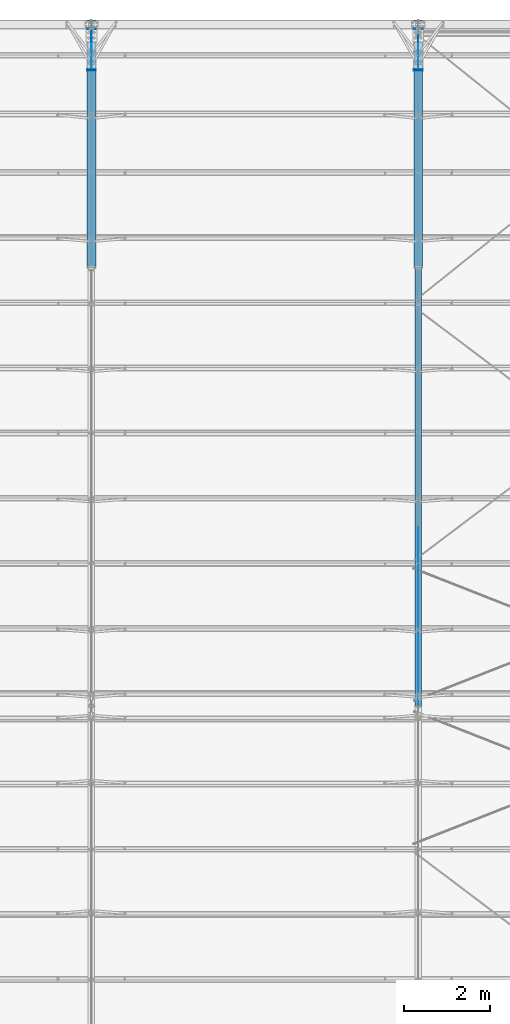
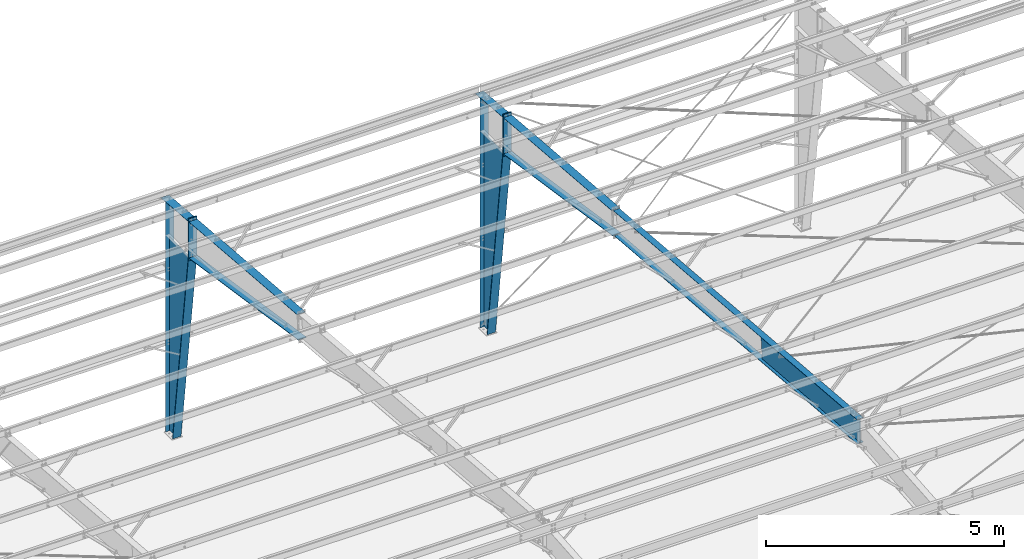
# One storey, part 57 of 185: 19 discrete accessories, 5 elements without a shape of their own.
"""IFC2X3 building model written with IfcOpenShell, lengths in millimetres."""

from ifc_helpers import new_model, si_unit, frame, origin_with_axes, origin_2d_with_axis, place, context, subcontext, project, spatial, rectangle, extrude, clip, halfspace, material, type_object, element, aggregate, save


model = new_model("IFC2X3")

# Units and contexts
model_context = context("Model", 3, precision=1e-05, world=origin_with_axes())
body_context = subcontext(model_context, "Body", "Model", "MODEL_VIEW")
ifc_project = project(units=[si_unit("LENGTHUNIT", "METRE", prefix="MILLI"), si_unit("AREAUNIT", "SQUARE_METRE"), si_unit("VOLUMEUNIT", "CUBIC_METRE"), si_unit("MASSUNIT", "GRAM", prefix="KILO"), si_unit("TIMEUNIT", "SECOND"), si_unit("PLANEANGLEUNIT", "RADIAN"), si_unit("SOLIDANGLEUNIT", "STERADIAN"), si_unit("THERMODYNAMICTEMPERATUREUNIT", "DEGREE_CELSIUS"), si_unit("LUMINOUSINTENSITYUNIT", "LUMEN")], contexts=[model_context])

# Site, building, storey
site_placement = place(None, origin_with_axes())
site = spatial("IfcSite", under=ifc_project, at=site_placement, Name="Undefined", CompositionType="ELEMENT")
building_placement = place(site_placement, origin_with_axes())
building = spatial("IfcBuilding", under=site, at=building_placement, Name="Undefined", CompositionType="ELEMENT")
storey_placement = place(building_placement, origin_with_axes())
storey = spatial("IfcBuildingStorey", under=building, at=storey_placement, Name="Undefined", CompositionType="ELEMENT", Elevation=0.0)

# Assembly, discrete accessory
assembly_1_placement = place(storey_placement, origin_with_axes())
assembly_1 = element("IfcElementAssembly", 1, at=assembly_1_placement, inside=storey, Name="Steel Assembly", AssemblyPlace="NOTDEFINED", PredefinedType="RIGID_FRAME")
ifc_material = material(Name="STEEL/55")
discrete_accessory_type_1 = type_object("IfcDiscreteAccessoryType", Name="Outside Flange")
discrete_accessory_1_placement = place(assembly_1_placement, frame((30099.0, 16015.0269501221, 7220.48297948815), z_axis=(-1.0, 0.0, 0.0), x_axis=(0.0, 0.996545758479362, -0.0830454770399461)))
discrete_accessory_1 = element("IfcDiscreteAccessory", 2, at=discrete_accessory_1_placement, type_object=discrete_accessory_type_1, material=ifc_material, Name="Outside Flange", ObjectType="FL5/16\"X6\"", context=body_context, shape_type="SweptSolid", body=[
    extrude(rectangle(XDim=7.874, YDim=152.4, at=origin_2d_with_axis()), frame((10276.4296125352, 1.96160351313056e-12, 0.0), z_axis=(-1.0, 0.0, 0.0), x_axis=(0.0, -1.0, 0.0)), (0.0, 0.0, 1.0), 10276.4),
])

assembly_2_placement = place(storey_placement, origin_with_axes())
assembly_2 = element("IfcElementAssembly", 3, at=assembly_2_placement, inside=storey, Name="Steel Assembly", AssemblyPlace="NOTDEFINED", PredefinedType="RIGID_FRAME")
discrete_accessory_2_placement = place(assembly_2_placement, frame((30099.0, 26278.234081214, 6365.21571746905), z_axis=(-1.0, 0.0, 0.0), x_axis=(0.0, 0.996545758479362, -0.0830454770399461)))
discrete_accessory_2 = element("IfcDiscreteAccessory", 4, at=discrete_accessory_2_placement, type_object=discrete_accessory_type_1, material=ifc_material, Name="Outside Flange", ObjectType="FL5/16\"X8\"", context=body_context, shape_type="SweptSolid", body=[
    extrude(rectangle(XDim=7.874, YDim=203.2, at=origin_2d_with_axis()), frame((4558.68878185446, 6.32645155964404e-14, 0.0), z_axis=(-1.0, 0.0, 0.0), x_axis=(0.0, -1.0, 0.0)), (0.0, 0.0, 1.0), 4558.7),
])

assembly_3_placement = place(storey_placement, origin_with_axes())
assembly_3 = element("IfcElementAssembly", 5, at=assembly_3_placement, inside=storey, Name="Steel Assembly", AssemblyPlace="NOTDEFINED", PredefinedType="RIGID_FRAME")
discrete_accessory_3_placement = place(assembly_3_placement, frame((30099.0, 31796.863, 15.8750000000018), z_axis=(0.0, 0.0, 1.0), x_axis=(1.0, 0.0, 0.0)))
discrete_accessory_3 = element("IfcDiscreteAccessory", 6, at=discrete_accessory_3_placement, type_object=discrete_accessory_type_1, material=ifc_material, Name="Outside Flange", ObjectType="FL5/16\"X8\"", context=body_context, shape_type="SweptSolid", body=[
    extrude(rectangle(XDim=7.874, YDim=203.2, at=origin_2d_with_axis()), frame((0.0, 0.0, 5885.17624136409), z_axis=(0.0, 0.0, -1.0), x_axis=(0.0, 1.0, 0.0)), (0.0, 0.0, 1.0), 5885.2),
])

assembly_4_placement = place(storey_placement, origin_with_axes())
assembly_4 = element("IfcElementAssembly", 7, at=assembly_4_placement, inside=storey, Name="Steel Assembly", AssemblyPlace="NOTDEFINED", PredefinedType="RIGID_FRAME")
discrete_accessory_4_placement = place(assembly_4_placement, frame((22479.0, 26278.234081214, 6365.21571746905), z_axis=(-1.0, 0.0, 0.0), x_axis=(0.0, 0.996545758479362, -0.0830454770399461)))
discrete_accessory_4 = element("IfcDiscreteAccessory", 8, at=discrete_accessory_4_placement, type_object=discrete_accessory_type_1, material=ifc_material, Name="Outside Flange", ObjectType="FL5/16\"X8\"", context=body_context, shape_type="SweptSolid", body=[
    extrude(rectangle(XDim=7.874, YDim=203.2, at=origin_2d_with_axis()), frame((4558.68878185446, 6.32645155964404e-14, 0.0), z_axis=(-1.0, 0.0, 0.0), x_axis=(0.0, -1.0, 0.0)), (0.0, 0.0, 1.0), 4558.7),
])

assembly_5_placement = place(storey_placement, origin_with_axes())
assembly_5 = element("IfcElementAssembly", 9, at=assembly_5_placement, inside=storey, Name="Steel Assembly", AssemblyPlace="NOTDEFINED", PredefinedType="RIGID_FRAME")
discrete_accessory_5_placement = place(assembly_5_placement, frame((22479.0, 31796.863, 15.8750000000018), z_axis=(0.0, 0.0, 1.0), x_axis=(1.0, 0.0, 0.0)))
discrete_accessory_5 = element("IfcDiscreteAccessory", 10, at=discrete_accessory_5_placement, type_object=discrete_accessory_type_1, material=ifc_material, Name="Outside Flange", ObjectType="FL5/16\"X8\"", context=body_context, shape_type="SweptSolid", body=[
    extrude(rectangle(XDim=7.874, YDim=203.2, at=origin_2d_with_axis()), frame((0.0, 0.0, 5885.17624136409), z_axis=(0.0, 0.0, -1.0), x_axis=(0.0, 1.0, 0.0)), (0.0, 0.0, 1.0), 5885.2),
])

# Discrete accessory
discrete_accessory_type_2 = type_object("IfcDiscreteAccessoryType", Name="Inside Flange")
discrete_accessory_6_placement = place(assembly_1_placement, frame((30099.0000000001, 16015.0955042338, 6600.03460773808), z_axis=(-1.0, 0.0, 0.0), x_axis=(0.0, 0.996545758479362, -0.0830454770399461)))
discrete_accessory_6 = element("IfcDiscreteAccessory", 11, at=discrete_accessory_6_placement, type_object=discrete_accessory_type_2, material=ifc_material, Name="Inside Flange", ObjectType="FL3/8\"X6\"", context=body_context, shape_type="SweptSolid", body=[
    extrude(rectangle(XDim=9.525, YDim=152.4, at=origin_2d_with_axis()), frame((10224.8358624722, 0.0, 0.0), z_axis=(-1.0, 0.0, 0.0), x_axis=(0.0, -1.0, 0.0)), (0.0, 0.0, 1.0), 10224.8),
])

discrete_accessory_7_placement = place(assembly_2_placement, frame((30098.9999999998, 30820.5627257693, 5058.80982208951), z_axis=(1.0, 0.0, 0.0), x_axis=(0.0, -0.988976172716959, 0.148074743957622)))
discrete_accessory_7 = element("IfcDiscreteAccessory", 12, at=discrete_accessory_7_placement, type_object=discrete_accessory_type_2, material=ifc_material, Name="Inside Flange", ObjectType="FL1/2\"X8\"", context=body_context, shape_type="SweptSolid", body=[
    extrude(rectangle(XDim=12.7, YDim=203.2, at=origin_2d_with_axis()), frame((4644.66771051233, -1.28915425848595e-13, 0.0), z_axis=(-1.0, 0.0, 0.0), x_axis=(0.0, -1.0, 0.0)), (0.0, 0.0, 1.0), 4644.7),
])

discrete_accessory_8_placement = place(assembly_3_placement, frame((30099.0, 31502.1855049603, 16.7056326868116), z_axis=(1.0, 0.0, 0.0), x_axis=(0.0, -0.130808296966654, 0.991407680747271)))
discrete_accessory_8 = element("IfcDiscreteAccessory", 13, at=discrete_accessory_8_placement, type_object=discrete_accessory_type_2, material=ifc_material, Name="Inside Flange", ObjectType="FL1/2\"X8\"", context=body_context, shape_type="SweptSolid", body=[
    extrude(rectangle(XDim=12.7, YDim=203.2, at=origin_2d_with_axis()), frame((5010.04109205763, -1.39056574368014e-13, 0.0), z_axis=(-1.0, 0.0, 0.0), x_axis=(0.0, -1.0, 0.0)), (0.0, 0.0, 1.0), 5010.0),
])

discrete_accessory_9_placement = place(assembly_4_placement, frame((22478.9999999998, 30820.5627257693, 5058.80982208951), z_axis=(1.0, 0.0, 0.0), x_axis=(0.0, -0.988976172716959, 0.148074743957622)))
discrete_accessory_9 = element("IfcDiscreteAccessory", 14, at=discrete_accessory_9_placement, type_object=discrete_accessory_type_2, material=ifc_material, Name="Inside Flange", ObjectType="FL1/2\"X8\"", context=body_context, shape_type="SweptSolid", body=[
    extrude(rectangle(XDim=12.7, YDim=203.2, at=origin_2d_with_axis()), frame((4644.66771051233, -1.28915425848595e-13, 0.0), z_axis=(-1.0, 0.0, 0.0), x_axis=(0.0, -1.0, 0.0)), (0.0, 0.0, 1.0), 4644.7),
])

discrete_accessory_10_placement = place(assembly_5_placement, frame((22479.0, 31502.1855049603, 16.7056326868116), z_axis=(1.0, 0.0, 0.0), x_axis=(0.0, -0.130808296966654, 0.991407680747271)))
discrete_accessory_10 = element("IfcDiscreteAccessory", 15, at=discrete_accessory_10_placement, type_object=discrete_accessory_type_2, material=ifc_material, Name="Inside Flange", ObjectType="FL1/2\"X8\"", context=body_context, shape_type="SweptSolid", body=[
    extrude(rectangle(XDim=12.7, YDim=203.2, at=origin_2d_with_axis()), frame((5010.04109205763, -1.39056574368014e-13, 0.0), z_axis=(-1.0, 0.0, 0.0), x_axis=(0.0, -1.0, 0.0)), (0.0, 0.0, 1.0), 5010.0),
])

discrete_accessory_type_3 = type_object("IfcDiscreteAccessoryType", Name="Web")
discrete_accessory_11_placement = place(assembly_1_placement, frame((30099.0, 20155.3771358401, 6565.64664856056), z_axis=(0.0, 0.0830454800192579, 0.996545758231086), x_axis=(0.0, -0.996545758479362, 0.0830454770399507)))
discrete_accessory_11 = element("IfcDiscreteAccessory", 16, at=discrete_accessory_11_placement, type_object=discrete_accessory_type_3, material=ifc_material, Name="Web", ObjectType="PL3/16\"X24\"", context=body_context, shape_type="Clipping", body=[
    clip(extrude(rectangle(XDim=4.762, YDim=609.6, at=origin_2d_with_axis()), frame((4231.63776454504, 0.0, 5.87257709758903e-14), z_axis=(-1.0, 0.0, 0.0), x_axis=(0.0, -1.0, 0.0)), (0.0, 0.0, 1.0), 4231.6), halfspace(frame((4180.5175024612, 0.0, 305.854676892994), z_axis=(-0.996545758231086, 0.0, 0.0830454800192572), x_axis=(0.0, -1.0, 0.0)), True)),
])

aggregate(assembly_1, [discrete_accessory_1, discrete_accessory_6, discrete_accessory_11])

discrete_accessory_12_placement = place(assembly_3_placement, frame((30099.0, 31323.026, 15.8750000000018), z_axis=(0.0, 0.0, 1.0), x_axis=(0.0, 1.0, 0.0)))
discrete_accessory_12 = element("IfcDiscreteAccessory", 17, at=discrete_accessory_12_placement, type_object=discrete_accessory_type_3, material=ifc_material, Name="Web", ObjectType="PL3/16\"X37\"", context=body_context, shape_type="Clipping", body=[
    clip(extrude(rectangle(XDim=4.7625, YDim=939.8, at=origin_2d_with_axis()), frame((0.0, 0.0, 4968.65448446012), z_axis=(0.0, 0.0, -1.0), x_axis=(0.0, 1.0, 0.0)), (0.0, 0.0, 1.0), 4968.7), halfspace(frame((-469.900000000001, -2.38124999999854, 4968.65448446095), z_axis=(-0.991407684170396, 0.0, -0.130808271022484), x_axis=(0.130808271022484, 0.0, -0.991407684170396)), False)),
])

discrete_accessory_13_placement = place(assembly_5_placement, frame((22479.0, 31323.026, 15.8750000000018), z_axis=(0.0, 0.0, 1.0), x_axis=(0.0, 1.0, 0.0)))
discrete_accessory_13 = element("IfcDiscreteAccessory", 18, at=discrete_accessory_13_placement, type_object=discrete_accessory_type_3, material=ifc_material, Name="Web", ObjectType="PL3/16\"X37\"", context=body_context, shape_type="Clipping", body=[
    clip(extrude(rectangle(XDim=4.7625, YDim=939.8, at=origin_2d_with_axis()), frame((0.0, 0.0, 4968.65448446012), z_axis=(0.0, 0.0, -1.0), x_axis=(0.0, 1.0, 0.0)), (0.0, 0.0, 1.0), 4968.7), halfspace(frame((-469.900000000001, -2.38124999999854, 4968.65448446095), z_axis=(-0.991407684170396, 0.0, -0.130808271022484), x_axis=(0.130808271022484, 0.0, -0.991407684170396)), False)),
])

discrete_accessory_type_4 = type_object("IfcDiscreteAccessoryType", Name="Rafter Haunch Plate")
discrete_accessory_14_placement = place(assembly_2_placement, frame((30099.0, 30829.377, 6060.85448861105), z_axis=(-1.0, 0.0, 0.0), x_axis=(0.0, 0.0, -1.0)))
discrete_accessory_14 = element("IfcDiscreteAccessory", 19, at=discrete_accessory_14_placement, type_object=discrete_accessory_type_4, material=ifc_material, Name="Rafter Haunch Plate", ObjectType="PL5/8\"X8\"", context=body_context, shape_type="SweptSolid", body=[
    extrude(rectangle(XDim=15.748, YDim=203.2, at=origin_2d_with_axis()), frame((1076.32500219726, 0.0, 0.0), z_axis=(-1.0, 0.0, 0.0), x_axis=(0.0, -1.0, 0.0)), (0.0, 0.0, 1.0), 1076.3),
])

aggregate(assembly_2, [discrete_accessory_2, discrete_accessory_7, discrete_accessory_14])

discrete_accessory_15_placement = place(assembly_4_placement, frame((22479.0, 30829.377, 6060.85448861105), z_axis=(-1.0, 0.0, 0.0), x_axis=(0.0, 0.0, -1.0)))
discrete_accessory_15 = element("IfcDiscreteAccessory", 20, at=discrete_accessory_15_placement, type_object=discrete_accessory_type_4, material=ifc_material, Name="Rafter Haunch Plate", ObjectType="PL5/8\"X8\"", context=body_context, shape_type="SweptSolid", body=[
    extrude(rectangle(XDim=15.748, YDim=203.2, at=origin_2d_with_axis()), frame((1076.32500219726, 0.0, 0.0), z_axis=(-1.0, 0.0, 0.0), x_axis=(0.0, -1.0, 0.0)), (0.0, 0.0, 1.0), 1076.3),
])

aggregate(assembly_4, [discrete_accessory_4, discrete_accessory_9, discrete_accessory_15])

discrete_accessory_type_5 = type_object("IfcDiscreteAccessoryType", Name="Column Connection Pla")
discrete_accessory_16_placement = place(assembly_3_placement, frame((30099.0, 30845.1885, 6060.85448555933), z_axis=(-1.0, 0.0, 0.0), x_axis=(0.0, 0.0, -1.0)))
discrete_accessory_16 = element("IfcDiscreteAccessory", 21, at=discrete_accessory_16_placement, type_object=discrete_accessory_type_5, material=ifc_material, Name="Column Connection Pla", ObjectType="FL5/8\"X8\"", context=body_context, shape_type="SweptSolid", body=[
    extrude(rectangle(XDim=15.875, YDim=203.2, at=origin_2d_with_axis()), frame((1076.32500219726, 0.0, 0.0), z_axis=(-1.0, 0.0, 0.0), x_axis=(0.0, -1.0, 0.0)), (0.0, 0.0, 1.0), 1076.3),
])

discrete_accessory_17_placement = place(assembly_5_placement, frame((22479.0, 30845.1885, 6060.85448555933), z_axis=(-1.0, 0.0, 0.0), x_axis=(0.0, 0.0, -1.0)))
discrete_accessory_17 = element("IfcDiscreteAccessory", 22, at=discrete_accessory_17_placement, type_object=discrete_accessory_type_5, material=ifc_material, Name="Column Connection Pla", ObjectType="FL5/8\"X8\"", context=body_context, shape_type="SweptSolid", body=[
    extrude(rectangle(XDim=15.875, YDim=203.2, at=origin_2d_with_axis()), frame((1076.32500219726, 0.0, 0.0), z_axis=(-1.0, 0.0, 0.0), x_axis=(0.0, -1.0, 0.0)), (0.0, 0.0, 1.0), 1076.3),
])

discrete_accessory_type_6 = type_object("IfcDiscreteAccessoryType", Name="Cap Plate")
discrete_accessory_18_placement = place(assembly_3_placement, frame((30099.0, 32003.669885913, 5888.13429608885), z_axis=(1.0, 0.0, 0.0), x_axis=(0.0, -0.996545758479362, 0.0830454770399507)))
discrete_accessory_18 = element("IfcDiscreteAccessory", 23, at=discrete_accessory_18_placement, type_object=discrete_accessory_type_6, material=ifc_material, Name="Cap Plate", ObjectType="FL5/16\"X8\"", context=body_context, shape_type="SweptSolid", body=[
    extrude(rectangle(XDim=7.9502, YDim=203.2, at=origin_2d_with_axis()), frame((1154.20065993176, 0.0, 0.0), z_axis=(-1.0, 0.0, 0.0), x_axis=(0.0, -1.0, 0.0)), (0.0, 0.0, 1.0), 1154.2),
])

aggregate(assembly_3, [discrete_accessory_16, discrete_accessory_18, discrete_accessory_3, discrete_accessory_8, discrete_accessory_12])

discrete_accessory_19_placement = place(assembly_5_placement, frame((22479.0, 32003.669885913, 5888.13429608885), z_axis=(1.0, 0.0, 0.0), x_axis=(0.0, -0.996545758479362, 0.0830454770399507)))
discrete_accessory_19 = element("IfcDiscreteAccessory", 24, at=discrete_accessory_19_placement, type_object=discrete_accessory_type_6, material=ifc_material, Name="Cap Plate", ObjectType="FL5/16\"X8\"", context=body_context, shape_type="SweptSolid", body=[
    extrude(rectangle(XDim=7.9502, YDim=203.2, at=origin_2d_with_axis()), frame((1154.20065993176, 0.0, 0.0), z_axis=(-1.0, 0.0, 0.0), x_axis=(0.0, -1.0, 0.0)), (0.0, 0.0, 1.0), 1154.2),
])

aggregate(assembly_5, [discrete_accessory_17, discrete_accessory_19, discrete_accessory_5, discrete_accessory_10, discrete_accessory_13])

save(model, "model.ifc")
